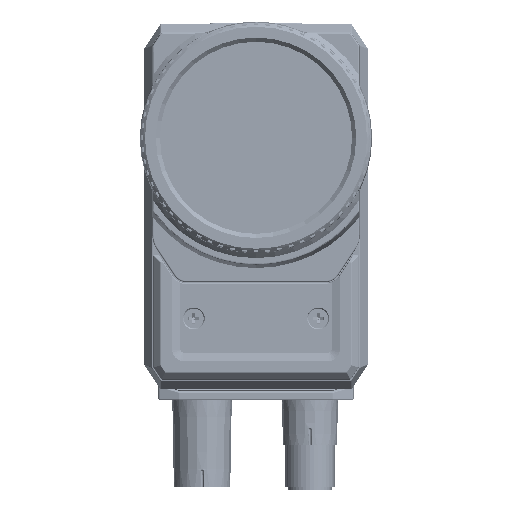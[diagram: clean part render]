
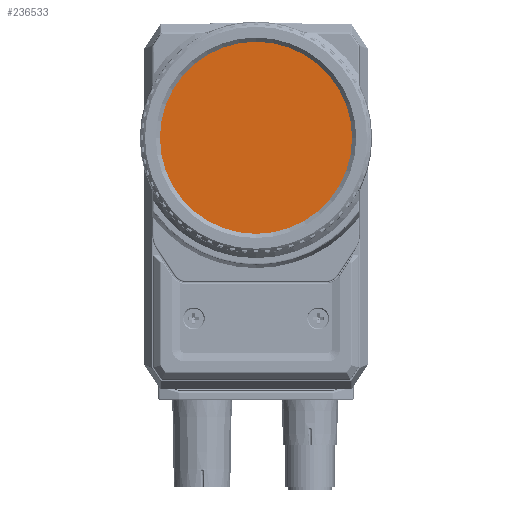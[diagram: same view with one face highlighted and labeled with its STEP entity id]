
A CAD part, front view. The second image highlights one B-rep face of the part: STEP entity #236533.
In plain terms, the highlighted planar face has unit normal (0, -1, 0) as drawn and (0, 0, -1) by its records, which use the part's own axes.
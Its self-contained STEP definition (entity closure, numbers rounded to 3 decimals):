
#236486=CARTESIAN_POINT('',(0.,0.,0.));
#236487=DIRECTION('',(0.,0.,1.));
#236488=DIRECTION('',(1.,0.,0.));
#236489=AXIS2_PLACEMENT_3D('',#236486,#236487,#236488);
#236491=CARTESIAN_POINT('',(0.,0.,0.));
#236492=DIRECTION('',(0.,0.,1.));
#236493=DIRECTION('',(-1.,0.,0.));
#236494=AXIS2_PLACEMENT_3D('',#236491,#236492,#236493);
#236514=CARTESIAN_POINT('',(24.85,0.,0.));
#236515=CARTESIAN_POINT('',(-24.85,0.,0.));
#236516=VERTEX_POINT('',#236514);
#236517=VERTEX_POINT('',#236515);
#236522=CARTESIAN_POINT('',(0.,0.,0.));
#236523=DIRECTION('',(0.,0.,1.));
#236524=DIRECTION('',(1.,0.,0.));
#236525=AXIS2_PLACEMENT_3D('',#236522,#236523,#236524);
#236526=PLANE('',#236525);
#236528=ORIENTED_EDGE('',*,*,#236527,.T.);
#236530=ORIENTED_EDGE('',*,*,#236529,.T.);
#236531=EDGE_LOOP('',(#236528,#236530));
#236532=FACE_OUTER_BOUND('',#236531,.F.);
#236490=CIRCLE('',#236489,24.85);
#236495=CIRCLE('',#236494,24.85);
#236527=EDGE_CURVE('',#236516,#236517,#236490,.T.);
#236529=EDGE_CURVE('',#236517,#236516,#236495,.T.);
#236533=ADVANCED_FACE('',(#236532),#236526,.F.);
